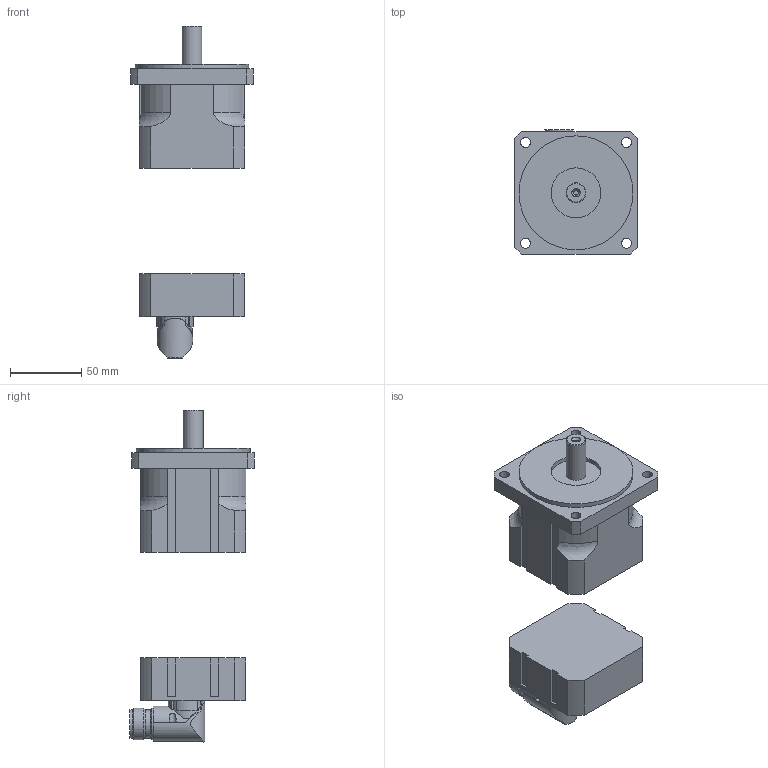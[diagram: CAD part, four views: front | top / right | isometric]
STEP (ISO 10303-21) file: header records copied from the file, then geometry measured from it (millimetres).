
FILE_DESCRIPTION(/* description */ ('Alibre Inc.'),/* implementation_level */ '2;1');
FILE_NAME(/* name */ 'export0',/* time_stamp */ '2010-12-20T08:58:44+01:00',/* author */ (''),/* organization */ (''),/* preprocessor_version */ 'ST-DEVELOPER v12',/* originating_system */ 'Alibre',/* authorisation */ '');
FILE_SCHEMA (('ALIBRE_SCHEMA','CONFIG_CONTROL_DESIGN'));
Length unit declared in the file: millimetre
Products named in the file (4): ID_1
Bounding box: 86 x 87.51 x 233 mm (x, y, z)
Volume: 576422.6 mm3; surface area: 67023.2 mm2
Topology: 3 solids, 3 shells, 155 faces, 419 edges, 279 vertices
Faces by surface type: cylinder 62, plane 59, bspline 26, cone 4, torus 4
Full cylindrical faces by diameter (mm): 2.7 x4, 14 x1, 20 x3, 22 x2, 35 x1, 80 x1
Entity records: 15128 total; most frequent: CARTESIAN_POINT 4301, ORIENTED_EDGE 1700, DIRECTION 1663, EDGE_CURVE 850, AXIS2_PLACEMENT_3D 625, VERTEX_POINT 602, VECTOR 539, LINE 498
